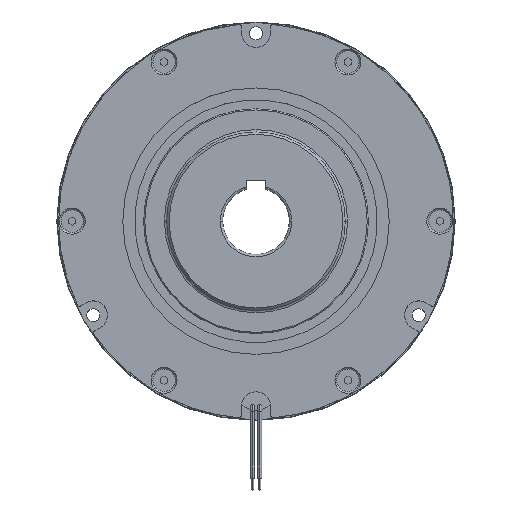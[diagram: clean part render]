
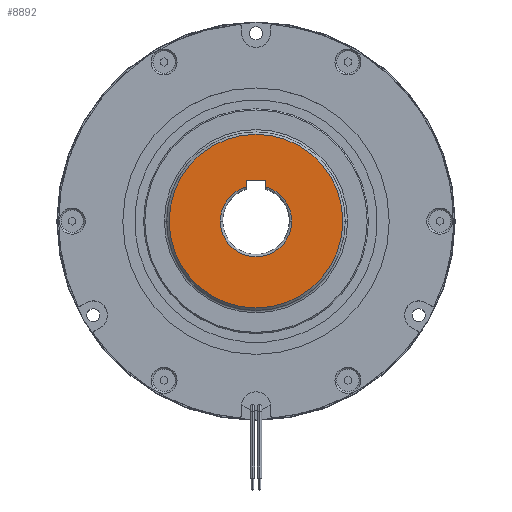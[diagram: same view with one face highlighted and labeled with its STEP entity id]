
A CAD part, top view. The second image highlights one B-rep face of the part: STEP entity #8892.
In plain terms, the highlighted planar face has unit normal (0, 0, 1).
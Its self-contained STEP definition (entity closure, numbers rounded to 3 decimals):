
#2852 = CARTESIAN_POINT ( 'NONE',  ( 0., 0., 33.2 ) ) ;
#2853 = DIRECTION ( 'NONE',  ( 0., 0., -1. ) ) ;
#2854 = DIRECTION ( 'NONE',  ( -1., 0., 0. ) ) ;
#3322 = AXIS2_PLACEMENT_3D ( 'NONE', #13365, #13366, #13367 ) ;
#4427 = EDGE_LOOP ( 'NONE', ( #12970, #12969, #12968, #12967, #12966, #12965 ) ) ;
#4490 = EDGE_LOOP ( 'NONE', ( #12972, #12971 ) ) ;
#5564 = AXIS2_PLACEMENT_3D ( 'NONE', #12346, #12348, #12349 ) ;
#5647 = AXIS2_PLACEMENT_3D ( 'NONE', #11184, #11185, #11186 ) ;
#5666 = AXIS2_PLACEMENT_3D ( 'NONE', #11243, #11244, #11245 ) ;
#5668 = AXIS2_PLACEMENT_3D ( 'NONE', #11262, #11263, #11264 ) ;
#5698 = AXIS2_PLACEMENT_3D ( 'NONE', #2852, #2853, #2854 ) ;
#6957 = EDGE_CURVE ( 'NONE', #12849, #12847, #17003, .T. ) ;
#7154 = EDGE_CURVE ( 'NONE', #12810, #12846, #17317, .T. ) ;
#7173 = EDGE_CURVE ( 'NONE', #12846, #12810, #17335, .T. ) ;
#7177 = EDGE_CURVE ( 'NONE', #12613, #12850, #17338, .T. ) ;
#7178 = EDGE_CURVE ( 'NONE', #12847, #12598, #17342, .T. ) ;
#7179 = EDGE_CURVE ( 'NONE', #12598, #12628, #17343, .T. ) ;
#7180 = EDGE_CURVE ( 'NONE', #12628, #12613, #17344, .T. ) ;
#7237 = EDGE_CURVE ( 'NONE', #12850, #12849, #17424, .T. ) ;
#8754 = CARTESIAN_POINT ( 'NONE',  ( 36.5, 0., 33.2 ) ) ;
#8788 = CARTESIAN_POINT ( 'NONE',  ( -36.5, 0., 33.2 ) ) ;
#8789 = CARTESIAN_POINT ( 'NONE',  ( -15., 0., 33.2 ) ) ;
#8791 = CARTESIAN_POINT ( 'NONE',  ( 15., 0., 33.2 ) ) ;
#8792 = CARTESIAN_POINT ( 'NONE',  ( 4., 14.457, 33.2 ) ) ;
#8892 = ADVANCED_FACE ( 'NONE', ( #15046, #15050 ), #13358, .F. ) ;
#9859 = CARTESIAN_POINT ( 'NONE',  ( -4., 14.457, 33.2 ) ) ;
#9874 = CARTESIAN_POINT ( 'NONE',  ( 4., 17., 33.2 ) ) ;
#9888 = CARTESIAN_POINT ( 'NONE',  ( -4., 17., 33.2 ) ) ;
#11184 = CARTESIAN_POINT ( 'NONE',  ( 0., 0., 33.2 ) ) ;
#11185 = DIRECTION ( 'NONE',  ( 0., 0., 1. ) ) ;
#11186 = DIRECTION ( 'NONE',  ( -1., 0., 0. ) ) ;
#11243 = CARTESIAN_POINT ( 'NONE',  ( 0., 0., 33.2 ) ) ;
#11244 = DIRECTION ( 'NONE',  ( 0., 0., 1. ) ) ;
#11245 = DIRECTION ( 'NONE',  ( -1., 0., 0. ) ) ;
#11246 = CARTESIAN_POINT ( 'NONE',  ( 4., 17., 33.2 ) ) ;
#11249 = DIRECTION ( 'NONE',  ( 0., 1., 0. ) ) ;
#11259 = DIRECTION ( 'NONE',  ( 0., -1., 0. ) ) ;
#11260 = CARTESIAN_POINT ( 'NONE',  ( -4., 17., 33.2 ) ) ;
#11262 = CARTESIAN_POINT ( 'NONE',  ( 0., 0., 33.2 ) ) ;
#11263 = DIRECTION ( 'NONE',  ( 0., 0., -1. ) ) ;
#11264 = DIRECTION ( 'NONE',  ( -1., 0., 0. ) ) ;
#11265 = CARTESIAN_POINT ( 'NONE',  ( 4., 17., 33.2 ) ) ;
#11266 = DIRECTION ( 'NONE',  ( 1., 0., 0. ) ) ;
#12346 = CARTESIAN_POINT ( 'NONE',  ( 0., 0., 33.2 ) ) ;
#12348 = DIRECTION ( 'NONE',  ( 0., 0., -1. ) ) ;
#12349 = DIRECTION ( 'NONE',  ( -1., 0., 0. ) ) ;
#12598 = VERTEX_POINT ( 'NONE', #9859 ) ;
#12613 = VERTEX_POINT ( 'NONE', #9874 ) ;
#12628 = VERTEX_POINT ( 'NONE', #9888 ) ;
#12810 = VERTEX_POINT ( 'NONE', #8754 ) ;
#12846 = VERTEX_POINT ( 'NONE', #8788 ) ;
#12847 = VERTEX_POINT ( 'NONE', #8789 ) ;
#12849 = VERTEX_POINT ( 'NONE', #8791 ) ;
#12850 = VERTEX_POINT ( 'NONE', #8792 ) ;
#12965 = ORIENTED_EDGE ( 'NONE', *, *, #7180, .T. ) ;
#12966 = ORIENTED_EDGE ( 'NONE', *, *, #7179, .T. ) ;
#12967 = ORIENTED_EDGE ( 'NONE', *, *, #7178, .T. ) ;
#12968 = ORIENTED_EDGE ( 'NONE', *, *, #6957, .T. ) ;
#12969 = ORIENTED_EDGE ( 'NONE', *, *, #7237, .T. ) ;
#12970 = ORIENTED_EDGE ( 'NONE', *, *, #7177, .T. ) ;
#12971 = ORIENTED_EDGE ( 'NONE', *, *, #7154, .T. ) ;
#12972 = ORIENTED_EDGE ( 'NONE', *, *, #7173, .T. ) ;
#13358 = PLANE ( 'NONE',  #3322 ) ;
#13365 = CARTESIAN_POINT ( 'NONE',  ( 0., 0., 33.2 ) ) ;
#13366 = DIRECTION ( 'NONE',  ( 0., 0., -1. ) ) ;
#13367 = DIRECTION ( 'NONE',  ( -1., 0., 0. ) ) ;
#15046 = FACE_OUTER_BOUND ( 'NONE', #4490, .T. ) ;
#15050 = FACE_BOUND ( 'NONE', #4427, .T. ) ;
#17003 = CIRCLE ( 'NONE', #5564, 15. ) ;
#17317 = CIRCLE ( 'NONE', #5647, 36.5 ) ;
#17335 = CIRCLE ( 'NONE', #5666, 36.5 ) ;
#17338 = LINE ( 'NONE', #11246, #17341 ) ;
#17341 = VECTOR ( 'NONE', #11259, 1000. ) ;
#17342 = CIRCLE ( 'NONE', #5668, 15. ) ;
#17343 = LINE ( 'NONE', #11260, #17345 ) ;
#17344 = LINE ( 'NONE', #11265, #17347 ) ;
#17345 = VECTOR ( 'NONE', #11249, 1000. ) ;
#17347 = VECTOR ( 'NONE', #11266, 1000. ) ;
#17424 = CIRCLE ( 'NONE', #5698, 15. ) ;
